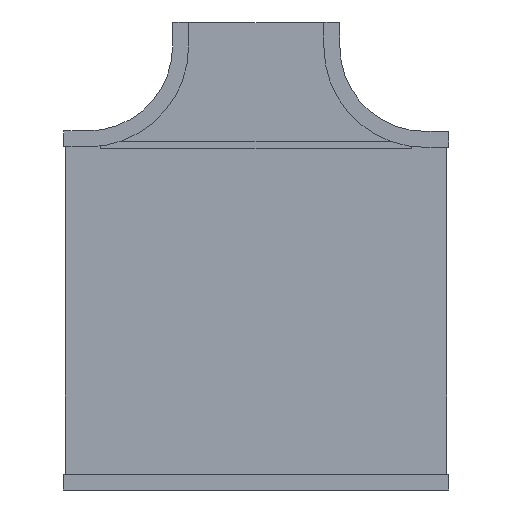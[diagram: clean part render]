
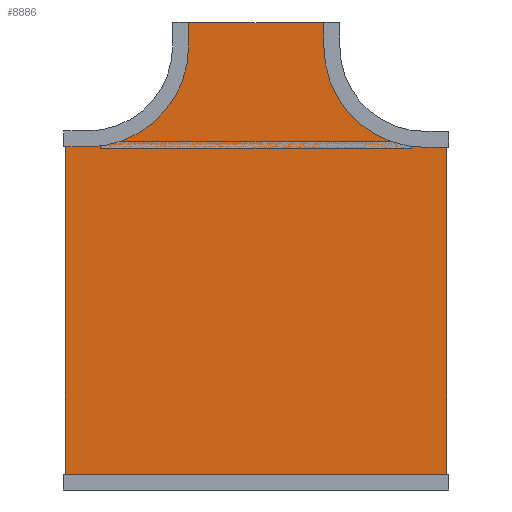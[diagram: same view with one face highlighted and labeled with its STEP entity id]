
A CAD part, front view. The second image highlights one B-rep face of the part: STEP entity #8886.
In plain terms, the highlighted planar face has unit normal (0, -1, 0).
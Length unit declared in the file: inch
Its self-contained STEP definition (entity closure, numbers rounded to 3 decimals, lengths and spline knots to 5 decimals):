
#8695=DIRECTION('',(1.,0.,0.));
#8696=VECTOR('',#8695,17.875);
#8697=CARTESIAN_POINT('',(-8.9375,0.,0.));
#8698=LINE('',#8697,#8696);
#8699=DIRECTION('',(0.,0.,-1.));
#8700=VECTOR('',#8699,2.875);
#8701=CARTESIAN_POINT('',(8.9375,0.,0.));
#8702=LINE('',#8701,#8700);
#8703=CARTESIAN_POINT('',(21.,0.,-2.875));
#8704=DIRECTION('',(0.,-1.,0.));
#8705=DIRECTION('',(-1.,0.,0.));
#8706=AXIS2_PLACEMENT_3D('',#8703,#8704,#8705);
#8708=DIRECTION('',(1.,0.,0.));
#8709=VECTOR('',#8708,2.875);
#8710=CARTESIAN_POINT('',(21.,0.,-14.9375));
#8711=LINE('',#8710,#8709);
#8712=DIRECTION('',(0.,0.,-1.));
#8713=VECTOR('',#8712,41.875);
#8714=CARTESIAN_POINT('',(23.875,0.,-14.9375));
#8715=LINE('',#8714,#8713);
#8716=DIRECTION('',(-1.,0.,0.));
#8717=VECTOR('',#8716,47.75);
#8718=CARTESIAN_POINT('',(23.875,0.,-56.8125));
#8719=LINE('',#8718,#8717);
#8720=DIRECTION('',(0.,0.,1.));
#8721=VECTOR('',#8720,41.875);
#8722=CARTESIAN_POINT('',(-23.875,0.,-56.8125));
#8723=LINE('',#8722,#8721);
#8724=DIRECTION('',(1.,0.,0.));
#8725=VECTOR('',#8724,2.875);
#8726=CARTESIAN_POINT('',(-23.875,0.,-14.9375));
#8727=LINE('',#8726,#8725);
#8728=CARTESIAN_POINT('',(-21.,0.,-2.875));
#8729=DIRECTION('',(0.,-1.,0.));
#8730=DIRECTION('',(0.,0.,-1.));
#8731=AXIS2_PLACEMENT_3D('',#8728,#8729,#8730);
#8733=DIRECTION('',(0.,0.,1.));
#8734=VECTOR('',#8733,2.875);
#8735=CARTESIAN_POINT('',(-8.9375,0.,-2.875));
#8736=LINE('',#8735,#8734);
#8819=CARTESIAN_POINT('',(-8.9375,0.,0.));
#8820=CARTESIAN_POINT('',(8.9375,0.,0.));
#8821=VERTEX_POINT('',#8819);
#8822=VERTEX_POINT('',#8820);
#8823=CARTESIAN_POINT('',(8.9375,0.,-2.875));
#8824=VERTEX_POINT('',#8823);
#8825=CARTESIAN_POINT('',(21.,0.,-14.9375));
#8826=VERTEX_POINT('',#8825);
#8827=CARTESIAN_POINT('',(23.875,0.,-14.9375));
#8828=VERTEX_POINT('',#8827);
#8829=CARTESIAN_POINT('',(23.875,0.,-56.8125));
#8830=VERTEX_POINT('',#8829);
#8831=CARTESIAN_POINT('',(-23.875,0.,-56.8125));
#8832=VERTEX_POINT('',#8831);
#8833=CARTESIAN_POINT('',(-23.875,0.,-14.9375));
#8834=VERTEX_POINT('',#8833);
#8835=CARTESIAN_POINT('',(-21.,0.,-14.9375));
#8836=VERTEX_POINT('',#8835);
#8837=CARTESIAN_POINT('',(-8.9375,0.,-2.875));
#8838=VERTEX_POINT('',#8837);
#8859=CARTESIAN_POINT('',(0.,0.,0.));
#8860=DIRECTION('',(0.,1.,0.));
#8861=DIRECTION('',(1.,0.,0.));
#8862=AXIS2_PLACEMENT_3D('',#8859,#8860,#8861);
#8863=PLANE('',#8862);
#8865=ORIENTED_EDGE('',*,*,#8864,.T.);
#8867=ORIENTED_EDGE('',*,*,#8866,.T.);
#8869=ORIENTED_EDGE('',*,*,#8868,.T.);
#8871=ORIENTED_EDGE('',*,*,#8870,.T.);
#8873=ORIENTED_EDGE('',*,*,#8872,.T.);
#8875=ORIENTED_EDGE('',*,*,#8874,.T.);
#8877=ORIENTED_EDGE('',*,*,#8876,.T.);
#8879=ORIENTED_EDGE('',*,*,#8878,.T.);
#8881=ORIENTED_EDGE('',*,*,#8880,.T.);
#8883=ORIENTED_EDGE('',*,*,#8882,.T.);
#8884=EDGE_LOOP('',(#8865,#8867,#8869,#8871,#8873,#8875,#8877,#8879,#8881,
#8883));
#8885=FACE_OUTER_BOUND('',#8884,.F.);
#8886=ADVANCED_FACE('',(#8885),#8863,.F.);
#8707=CIRCLE('',#8706,12.0625);
#8732=CIRCLE('',#8731,12.0625);
#8864=EDGE_CURVE('',#8821,#8822,#8698,.T.);
#8866=EDGE_CURVE('',#8822,#8824,#8702,.T.);
#8868=EDGE_CURVE('',#8824,#8826,#8707,.T.);
#8870=EDGE_CURVE('',#8826,#8828,#8711,.T.);
#8872=EDGE_CURVE('',#8828,#8830,#8715,.T.);
#8874=EDGE_CURVE('',#8830,#8832,#8719,.T.);
#8876=EDGE_CURVE('',#8832,#8834,#8723,.T.);
#8878=EDGE_CURVE('',#8834,#8836,#8727,.T.);
#8880=EDGE_CURVE('',#8836,#8838,#8732,.T.);
#8882=EDGE_CURVE('',#8838,#8821,#8736,.T.);
